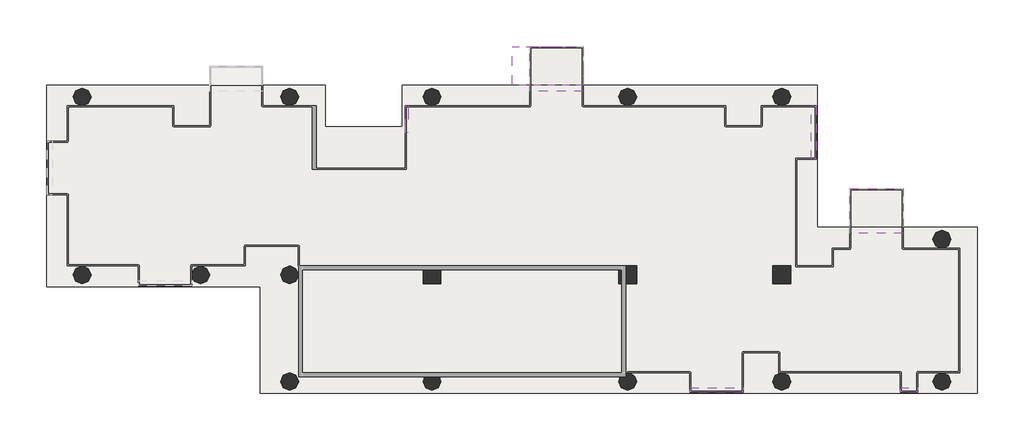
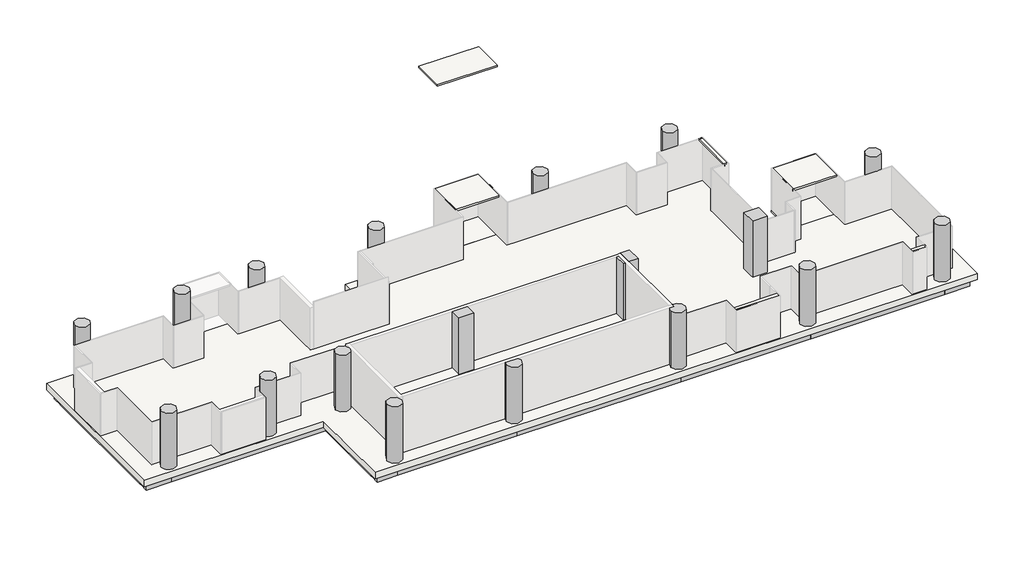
# One storey, part 2 of 2: 32 slabs, 25 beams, 18 columns.
"""IFC4 building model written with IfcOpenShell, lengths in millimetres."""

from ifc_helpers import new_model, si_unit, point, frame, frame_2d, origin, place, context, project, spatial, polyline, circle_curve, trimmed, segment, composite_curve, outline, extrude, transform, mapped, element, save
from ifc_brep_helpers import plane_surface, cylinder_surface, advanced_brep
from components import ajn_arc_ossature_rec_ba_700x600_5242ffbb, ajn_arc_ossature_rec_ba_700x600_213c05e2, ajn_arc_ossature_rec_ba_700x600_4d623bda, ajn_arc_ossature_rec_ba_700x600_c2a8f1af, ajn_arc_ossature_rec_ba_700x600_b2f97811, ajn_arc_ossature_rec_ba_700x600_e688680c, ajn_arc_ossature_rec_ba_700x600_8adee879, ajn_arc_ossature_rec_ba_700x600_6677e51c, ajn_arc_ossature_rec_ba_700x600_60e35d56, ajn_arc_ossature_rec_ba_700x600_9ae0f913, ajn_arc_ossature_rec_ba_700x600_5c14351b, ajn_arc_ossature_rec_ba_700x600_e883967f, ajn_arc_ossature_rec_ba_700x600_0984b03c, ajn_arc_ossature_rec_ba_700x600_78f846f2, ajn_arc_ossature_rec_ba_700x600_e869caa8, ajn_arc_ossature_rec_ba_700x600_0388eb48, ajn_arc_ossature_rec_ba_700x600_e143517c, ajn_arc_ossature_rec_ba_700x600_758f1bfa, ajn_arc_ossature_rec_ba_700x600_a03432ce, ajn_arc_ossature_rec_ba_700x600_9f913ea5

model = new_model("IFC4")

# Units and contexts
model_context = context("Model", 3, world=origin())
ifc_project = project(units=[si_unit("LENGTHUNIT", "METRE", prefix="MILLI")], contexts=[model_context])

# Site, building, storey
site = spatial("IfcSite", under=ifc_project)
building = spatial("IfcBuilding", under=site)
storey = spatial("IfcBuildingStorey", under=building, Name="TW-L 15", Elevation=53199.9999686)

# Beams
placement = place(None, origin())
ajn_arc_ossature_rec_ba_700x600_shape = ajn_arc_ossature_rec_ba_700x600_5242ffbb(model_context)
element("IfcBeam", 1, ObjectType="AJN-ARC-OSSATURE REC-BA : 700x600", at=placement, inside=storey, context=model_context, shape_type="MappedRepresentation", body=[
    mapped(ajn_arc_ossature_rec_ba_700x600_shape, transform((119350.0, 39300.0, 52649.9999686), x_axis=(-1.0, 0.0, 0.0), y_axis=(0.0, -1.0, 0.0), z_axis=(0.0, 0.0, 1.0))),
])
ajn_arc_ossature_rec_ba_700x600_2_shape = ajn_arc_ossature_rec_ba_700x600_213c05e2(model_context)
element("IfcBeam", 2, ObjectType="AJN-ARC-OSSATURE REC-BA : 700x600", at=placement, inside=storey, context=model_context, shape_type="MappedRepresentation", body=[
    mapped(ajn_arc_ossature_rec_ba_700x600_2_shape, transform((100900.0, 34800.0, 52649.9999686), x_axis=(0.0, -1.0, 0.0), y_axis=(1.0, 0.0, 0.0), z_axis=(0.0, 0.0, 1.0))),
])
ajn_arc_ossature_rec_ba_700x600_3_shape = ajn_arc_ossature_rec_ba_700x600_4d623bda(model_context)
element("IfcBeam", 3, ObjectType="AJN-ARC-OSSATURE REC-BA : 700x600", at=placement, inside=storey, context=model_context, shape_type="MappedRepresentation", body=[
    mapped(ajn_arc_ossature_rec_ba_700x600_3_shape, transform((112150.0, 24900.0, 52649.9999686), x_axis=(1.0, 0.0, 0.0), y_axis=(0.0, 1.0, 0.0), z_axis=(0.0, 0.0, 1.0))),
])
ajn_arc_ossature_rec_ba_700x600_4_shape = ajn_arc_ossature_rec_ba_700x600_c2a8f1af(model_context)
element("IfcBeam", 4, ObjectType="AJN-ARC-OSSATURE REC-BA : 700x600", at=placement, inside=storey, context=model_context, shape_type="MappedRepresentation", body=[
    mapped(ajn_arc_ossature_rec_ba_700x600_4_shape, transform((116200.0, 24900.0, 52649.9999686), x_axis=(1.0, 0.0, 0.0), y_axis=(0.0, 1.0, 0.0), z_axis=(0.0, 0.0, 1.0))),
])
ajn_arc_ossature_rec_ba_700x600_5_shape = ajn_arc_ossature_rec_ba_700x600_b2f97811(model_context)
element("IfcBeam", 5, ObjectType="AJN-ARC-OSSATURE REC-BA : 700x600", at=placement, inside=storey, context=model_context, shape_type="MappedRepresentation", body=[
    mapped(ajn_arc_ossature_rec_ba_700x600_5_shape, transform((106900.0, 30300.0, 52649.9999686), x_axis=(1.0, 0.0, 0.0), y_axis=(0.0, 1.0, 0.0), z_axis=(0.0, 0.0, 1.0))),
])
ajn_arc_ossature_rec_ba_700x600_6_shape = ajn_arc_ossature_rec_ba_700x600_e688680c(model_context)
element("IfcBeam", 6, ObjectType="AJN-ARC-OSSATURE REC-BA : 700x600", at=placement, inside=storey, context=model_context, shape_type="MappedRepresentation", body=[
    mapped(ajn_arc_ossature_rec_ba_700x600_6_shape, transform((111700.0, 27600.0, 52649.9999686), x_axis=(0.0, -1.0, 0.0), y_axis=(1.0, 0.0, 0.0), z_axis=(0.0, 0.0, 1.0))),
])
ajn_arc_ossature_rec_ba_700x600_7_shape = ajn_arc_ossature_rec_ba_700x600_8adee879(model_context)
element("IfcBeam", 7, ObjectType="AJN-ARC-OSSATURE REC-BA : 700x600", at=placement, inside=storey, context=model_context, shape_type="MappedRepresentation", body=[
    mapped(ajn_arc_ossature_rec_ba_700x600_7_shape, transform((124750.0, 24900.0, 52649.9999686), x_axis=(1.0, 0.0, 0.0), y_axis=(0.0, 1.0, 0.0), z_axis=(0.0, 0.0, 1.0))),
])
element("IfcBeam", 8, ObjectType="AJN-ARC-OSSATURE REC-BA : 700x600", at=placement, inside=storey, context=model_context, shape_type="MappedRepresentation", body=[
    mapped(ajn_arc_ossature_rec_ba_700x600_7_shape, transform((124750.0, 39300.0, 52649.9999686), x_axis=(-1.0, 0.0, 0.0), y_axis=(0.0, -1.0, 0.0), z_axis=(0.0, 0.0, 1.0))),
])
ajn_arc_ossature_rec_ba_700x600_8_shape = ajn_arc_ossature_rec_ba_700x600_6677e51c(model_context)
element("IfcBeam", 9, ObjectType="AJN-ARC-OSSATURE REC-BA : 700x600", at=placement, inside=storey, context=model_context, shape_type="MappedRepresentation", body=[
    mapped(ajn_arc_ossature_rec_ba_700x600_8_shape, transform((133600.0, 24900.0, 52649.9999686), x_axis=(1.0, 0.0, 0.0), y_axis=(0.0, 1.0, 0.0), z_axis=(0.0, 0.0, 1.0))),
])
ajn_arc_ossature_rec_ba_700x600_9_shape = ajn_arc_ossature_rec_ba_700x600_60e35d56(model_context)
element("IfcBeam", 10, ObjectType="AJN-ARC-OSSATURE REC-BA : 700x600", at=placement, inside=storey, context=model_context, shape_type="MappedRepresentation", body=[
    mapped(ajn_arc_ossature_rec_ba_700x600_9_shape, transform((141550.0, 24900.0, 52649.9999686), x_axis=(1.0, 0.0, 0.0), y_axis=(0.0, 1.0, 0.0), z_axis=(0.0, 0.0, 1.0))),
])
ajn_arc_ossature_rec_ba_700x600_10_shape = ajn_arc_ossature_rec_ba_700x600_9ae0f913(model_context)
element("IfcBeam", 11, ObjectType="AJN-ARC-OSSATURE REC-BA : 700x600", at=placement, inside=storey, context=model_context, shape_type="MappedRepresentation", body=[
    mapped(ajn_arc_ossature_rec_ba_700x600_10_shape, transform((146200.0, 24900.0, 52649.9999686), x_axis=(1.0, 0.0, 0.0), y_axis=(0.0, 1.0, 0.0), z_axis=(0.0, 0.0, 1.0))),
])
element("IfcBeam", 12, ObjectType="AJN-ARC-OSSATURE REC-BA : 700x600", at=placement, inside=storey, context=model_context, shape_type="MappedRepresentation", body=[
    mapped(ajn_arc_ossature_rec_ba_700x600_10_shape, transform((101500.0, 39300.0, 52649.9999686), x_axis=(-1.0, 0.0, 0.0), y_axis=(0.0, -1.0, 0.0), z_axis=(0.0, 0.0, 1.0))),
])
ajn_arc_ossature_rec_ba_700x600_11_shape = ajn_arc_ossature_rec_ba_700x600_5c14351b(model_context)
element("IfcBeam", 13, ObjectType="AJN-ARC-OSSATURE REC-BA : 700x600", at=placement, inside=storey, context=model_context, shape_type="MappedRepresentation", body=[
    mapped(ajn_arc_ossature_rec_ba_700x600_11_shape, transform((146800.0, 28500.0, 52649.9999686), x_axis=(0.0, 1.0, 0.0), y_axis=(-1.0, 0.0, 0.0), z_axis=(0.0, 0.0, 1.0))),
])
element("IfcBeam", 14, ObjectType="AJN-ARC-OSSATURE REC-BA : 700x600", at=placement, inside=storey, context=model_context, shape_type="MappedRepresentation", body=[
    mapped(ajn_arc_ossature_rec_ba_700x600_11_shape, transform((138700.0, 35700.0, 52649.9999686), x_axis=(0.0, 1.0, 0.0), y_axis=(-1.0, 0.0, 0.0), z_axis=(0.0, 0.0, 1.0))),
])
ajn_arc_ossature_rec_ba_700x600_12_shape = ajn_arc_ossature_rec_ba_700x600_e883967f(model_context)
element("IfcBeam", 15, ObjectType="AJN-ARC-OSSATURE REC-BA : 700x600", at=placement, inside=storey, context=model_context, shape_type="MappedRepresentation", body=[
    mapped(ajn_arc_ossature_rec_ba_700x600_12_shape, transform((146200.0, 32100.0, 52649.9999686), x_axis=(-1.0, 0.0, 0.0), y_axis=(0.0, -1.0, 0.0), z_axis=(0.0, 0.0, 1.0))),
])
element("IfcBeam", 16, ObjectType="AJN-ARC-OSSATURE REC-BA : 700x600", at=placement, inside=storey, context=model_context, shape_type="MappedRepresentation", body=[
    mapped(ajn_arc_ossature_rec_ba_700x600_12_shape, transform((138100.0, 39300.0, 52649.9999686), x_axis=(-1.0, 0.0, 0.0), y_axis=(0.0, -1.0, 0.0), z_axis=(0.0, 0.0, 1.0))),
])
element("IfcBeam", 17, ObjectType="AJN-ARC-OSSATURE REC-BA : 700x600", at=placement, inside=storey, context=model_context, shape_type="MappedRepresentation", body=[
    mapped(ajn_arc_ossature_rec_ba_700x600_12_shape, transform((101500.0, 30300.0, 52649.9999686), x_axis=(1.0, 0.0, 0.0), y_axis=(0.0, 1.0, 0.0), z_axis=(0.0, 0.0, 1.0))),
])
ajn_arc_ossature_rec_ba_700x600_13_shape = ajn_arc_ossature_rec_ba_700x600_0984b03c(model_context)
element("IfcBeam", 18, ObjectType="AJN-ARC-OSSATURE REC-BA : 700x600", at=placement, inside=storey, context=model_context, shape_type="MappedRepresentation", body=[
    mapped(ajn_arc_ossature_rec_ba_700x600_13_shape, transform((142150.0, 32100.0, 52649.9999686), x_axis=(-1.0, 0.0, 0.0), y_axis=(0.0, -1.0, 0.0), z_axis=(0.0, 0.0, 1.0))),
])
ajn_arc_ossature_rec_ba_700x600_14_shape = ajn_arc_ossature_rec_ba_700x600_78f846f2(model_context)
element("IfcBeam", 19, ObjectType="AJN-ARC-OSSATURE REC-BA : 700x600", at=placement, inside=storey, context=model_context, shape_type="MappedRepresentation", body=[
    mapped(ajn_arc_ossature_rec_ba_700x600_14_shape, transform((133600.0, 39300.0, 52649.9999686), x_axis=(-1.0, 0.0, 0.0), y_axis=(0.0, -1.0, 0.0), z_axis=(0.0, 0.0, 1.0))),
])
ajn_arc_ossature_rec_ba_700x600_15_shape = ajn_arc_ossature_rec_ba_700x600_e869caa8(model_context)
element("IfcBeam", 20, ObjectType="AJN-ARC-OSSATURE REC-BA : 700x600", at=placement, inside=storey, context=model_context, shape_type="MappedRepresentation", body=[
    mapped(ajn_arc_ossature_rec_ba_700x600_15_shape, transform((118900.0, 38250.0, 52649.9999686), x_axis=(0.0, -1.0, 0.0), y_axis=(1.0, 0.0, 0.0), z_axis=(0.0, 0.0, 1.0))),
])
ajn_arc_ossature_rec_ba_700x600_16_shape = ajn_arc_ossature_rec_ba_700x600_0388eb48(model_context)
element("IfcBeam", 21, ObjectType="AJN-ARC-OSSATURE REC-BA : 700x600", at=placement, inside=storey, context=model_context, shape_type="MappedRepresentation", body=[
    mapped(ajn_arc_ossature_rec_ba_700x600_16_shape, transform((110350.0, 39300.0, 52649.9999686), x_axis=(-1.0, 0.0, 0.0), y_axis=(0.0, -1.0, 0.0), z_axis=(0.0, 0.0, 1.0))),
])
ajn_arc_ossature_rec_ba_700x600_17_shape = ajn_arc_ossature_rec_ba_700x600_e143517c(model_context)
element("IfcBeam", 22, ObjectType="AJN-ARC-OSSATURE REC-BA : 700x600", at=placement, inside=storey, context=model_context, shape_type="MappedRepresentation", body=[
    mapped(ajn_arc_ossature_rec_ba_700x600_17_shape, transform((105100.0, 39300.0, 52649.9999686), x_axis=(-1.0, 0.0, 0.0), y_axis=(0.0, -1.0, 0.0), z_axis=(0.0, 0.0, 1.0))),
])
ajn_arc_ossature_rec_ba_700x600_18_shape = ajn_arc_ossature_rec_ba_700x600_758f1bfa(model_context)
element("IfcBeam", 23, ObjectType="AJN-ARC-OSSATURE REC-BA : 700x600", at=placement, inside=storey, context=model_context, shape_type="MappedRepresentation", body=[
    mapped(ajn_arc_ossature_rec_ba_700x600_18_shape, transform((116350.0, 37200.0, 52649.9999686), x_axis=(-1.0, 0.0, 0.0), y_axis=(0.0, -1.0, 0.0), z_axis=(0.0, 0.0, 1.0))),
])
ajn_arc_ossature_rec_ba_700x600_19_shape = ajn_arc_ossature_rec_ba_700x600_a03432ce(model_context)
element("IfcBeam", 24, ObjectType="AJN-ARC-OSSATURE REC-BA : 700x600", at=placement, inside=storey, context=model_context, shape_type="MappedRepresentation", body=[
    mapped(ajn_arc_ossature_rec_ba_700x600_19_shape, transform((113800.0, 38250.0, 52649.9999686), x_axis=(0.0, 1.0, 0.0), y_axis=(-1.0, 0.0, 0.0), z_axis=(0.0, 0.0, 1.0))),
])
ajn_arc_ossature_rec_ba_700x600_20_shape = ajn_arc_ossature_rec_ba_700x600_9f913ea5(model_context)
element("IfcBeam", 25, ObjectType="AJN-ARC-OSSATURE REC-BA : 700x600", at=placement, inside=storey, context=model_context, shape_type="MappedRepresentation", body=[
    mapped(ajn_arc_ossature_rec_ba_700x600_20_shape, transform((113200.0, 39300.0, 52649.9999686), x_axis=(-1.0, 0.0, 0.0), y_axis=(0.0, -1.0, 0.0), z_axis=(0.0, 0.0, 1.0))),
])

# Columns
element("IfcColumn", 26, ObjectType="AJN-ARC-POTEAU CIRCULAIRE : ø90", at=placement, inside=storey, context=model_context, shape_type="SweptSolid", body=[
    extrude(outline(composite_curve([segment(trimmed(circle_curve(frame_2d((102100.0, 39300.0)), 450.0), [point((101650.0, 39300.0))], [point((102550.0, 39300.0))], False, "CARTESIAN"), True, "CONTINUOUS"), segment(trimmed(circle_curve(frame_2d((102100.0, 39300.0)), 450.0), [point((102550.0, 39300.0))], [point((101650.0, 39300.0))], False, "CARTESIAN"), True, "CONTINUOUS")], self_intersect=False)), frame((0.0, 0.0, 53199.9999686), z_axis=(0.0, 0.0, 1.0), x_axis=(1.0, 0.0, 0.0)), (0.0, 0.0, 1.0), 3600.0),
])
element("IfcColumn", 27, ObjectType="AJN-ARC-POTEAU CIRCULAIRE : ø90", at=placement, inside=storey, context=model_context, shape_type="SweptSolid", body=[
    extrude(outline(composite_curve([segment(trimmed(circle_curve(frame_2d((102100.0, 30300.0)), 450.0), [point((101650.0, 30300.0))], [point((102550.0, 30300.0))], False, "CARTESIAN"), True, "CONTINUOUS"), segment(trimmed(circle_curve(frame_2d((102100.0, 30300.0)), 450.0), [point((102550.0, 30300.0))], [point((101650.0, 30300.0))], False, "CARTESIAN"), True, "CONTINUOUS")], self_intersect=False)), frame((0.0, 0.0, 53199.9999686), z_axis=(0.0, 0.0, 1.0), x_axis=(1.0, 0.0, 0.0)), (0.0, 0.0, 1.0), 3600.0),
])
element("IfcColumn", 28, ObjectType="AJN-ARC-POTEAU CIRCULAIRE : ø90", at=placement, inside=storey, context=model_context, shape_type="SweptSolid", body=[
    extrude(outline(composite_curve([segment(trimmed(circle_curve(frame_2d((108100.0, 30300.0)), 450.0), [point((107650.0, 30300.0))], [point((108550.0, 30300.0))], False, "CARTESIAN"), True, "CONTINUOUS"), segment(trimmed(circle_curve(frame_2d((108100.0, 30300.0)), 450.0), [point((108550.0, 30300.0))], [point((107650.0, 30300.0))], False, "CARTESIAN"), True, "CONTINUOUS")], self_intersect=False)), frame((0.0, 0.0, 53199.9999686), z_axis=(0.0, 0.0, 1.0), x_axis=(1.0, 0.0, 0.0)), (0.0, 0.0, 1.0), 3600.0),
])
element("IfcColumn", 29, ObjectType="AJN-ARC-POTEAU CIRCULAIRE : ø90", at=placement, inside=storey, context=model_context, shape_type="AdvancedBrep", body=[
    advanced_brep(
    [(107650.0, 39300.0, 53199.9999686), (108546.9852535, 39352.0017611, 53199.9999686), (108546.9852535, 39247.9982389, 53199.9999686), (107650.0, 39300.0, 56799.9999686), (108550.0, 39300.0, 56799.9999686), (108550.0, 39300.0, 55899.9999686), (108546.9852535, 39352.0017611, 55899.9999686), (108546.9852535, 39247.9982389, 55899.9999686)],
    [
        (0, 1, circle_curve(frame((108100.0, 39300.0, 53199.9999686), z_axis=(0.0, 0.0, -1.0), x_axis=(1.0, 0.0, 0.0)), 450.0)),
        (1, 2),
        (2, 0, circle_curve(frame((108100.0, 39300.0, 53199.9999686), z_axis=(0.0, 0.0, -1.0), x_axis=(1.0, 0.0, 0.0)), 450.0)),
        (3, 4, circle_curve(frame((108100.0, 39300.0, 56799.9999686), z_axis=(0.0, 0.0, -1.0), x_axis=(1.0, 0.0, 0.0)), 450.0)),
        (4, 5),
        (5, 6, circle_curve(frame((108100.0, 39300.0, 55899.9999686), z_axis=(0.0, 0.0, 1.0), x_axis=(1.0, 0.0, 0.0)), 450.0)),
        (6, 1),
        (0, 3),
        (2, 7),
        (7, 5, circle_curve(frame((108100.0, 39300.0, 55899.9999686), z_axis=(0.0, 0.0, 1.0), x_axis=(1.0, 0.0, 0.0)), 450.0)),
        (4, 3, circle_curve(frame((108100.0, 39300.0, 56799.9999686), z_axis=(0.0, 0.0, -1.0), x_axis=(1.0, 0.0, 0.0)), 450.0)),
        (6, 7),
    ],
    [
        plane_surface(frame((108550.0, 39300.0, 53199.9999686), z_axis=(0.0, 0.0, -1.0), x_axis=(0.0, -1.0, 0.0))),
        cylinder_surface(frame((108100.0, 39300.0, 53199.9999686), z_axis=(0.0, 0.0, 1.0), x_axis=(1.0, 0.0, 0.0)), 450.0),
        plane_surface(frame((108550.0, 39300.0, 56799.9999686), z_axis=(0.0, 0.0, 1.0), x_axis=(0.0, 1.0, 0.0))),
        plane_surface(frame((108546.9852535, 40825.0, 53199.9999686), z_axis=(1.0, 0.0, 0.0), x_axis=(0.0, -1.0, 0.0))),
        plane_surface(frame((108546.9852535, 37850.0, 55899.9999686), z_axis=(0.0, 0.0, -1.0), x_axis=(1.0, 0.0, 0.0))),
    ],
    [
        (0, [[1, 2, 3]]),
        (1, [[4, 5, 6, 7, -1, 8]]),
        (1, [[-8, -3, 9, 10, -5, 11]]),
        (2, [[-4, -11]]),
        (3, [[12, -9, -2, -7]]),
        (4, [[-12, -6, -10]]),
    ],
),
])
element("IfcColumn", 30, ObjectType="AJN-ARC-POTEAU CIRCULAIRE : ø90", at=placement, inside=storey, context=model_context, shape_type="SweptSolid", body=[
    extrude(outline(composite_curve([segment(trimmed(circle_curve(frame_2d((112600.0, 39300.0)), 450.0), [point((112150.0, 39300.0))], [point((113050.0, 39300.0))], False, "CARTESIAN"), True, "CONTINUOUS"), segment(trimmed(circle_curve(frame_2d((112600.0, 39300.0)), 450.0), [point((113050.0, 39300.0))], [point((112150.0, 39300.0))], False, "CARTESIAN"), True, "CONTINUOUS")], self_intersect=False)), frame((0.0, 0.0, 53199.9999686), z_axis=(0.0, 0.0, 1.0), x_axis=(1.0, 0.0, 0.0)), (0.0, 0.0, 1.0), 3600.0),
])
element("IfcColumn", 31, ObjectType="AJN-ARC-POTEAU CIRCULAIRE : ø90", at=placement, inside=storey, context=model_context, shape_type="SweptSolid", body=[
    extrude(outline(composite_curve([segment(trimmed(circle_curve(frame_2d((112600.0, 30300.0)), 450.0), [point((112150.0, 30300.0))], [point((113050.0, 30300.0))], False, "CARTESIAN"), True, "CONTINUOUS"), segment(trimmed(circle_curve(frame_2d((112600.0, 30300.0)), 450.0), [point((113050.0, 30300.0))], [point((112150.0, 30300.0))], False, "CARTESIAN"), True, "CONTINUOUS")], self_intersect=False)), frame((0.0, 0.0, 53199.9999686), z_axis=(0.0, 0.0, 1.0), x_axis=(1.0, 0.0, 0.0)), (0.0, 0.0, 1.0), 3600.0),
])
element("IfcColumn", 32, ObjectType="AJN-ARC-POTEAU CIRCULAIRE : ø90", at=placement, inside=storey, context=model_context, shape_type="SweptSolid", body=[
    extrude(outline(composite_curve([segment(trimmed(circle_curve(frame_2d((112600.0, 24900.0)), 450.0), [point((112150.0, 24900.0))], [point((113050.0, 24900.0))], False, "CARTESIAN"), True, "CONTINUOUS"), segment(trimmed(circle_curve(frame_2d((112600.0, 24900.0)), 450.0), [point((113050.0, 24900.0))], [point((112150.0, 24900.0))], False, "CARTESIAN"), True, "CONTINUOUS")], self_intersect=False)), frame((0.0, 0.0, 53199.9999686), z_axis=(0.0, 0.0, 1.0), x_axis=(1.0, 0.0, 0.0)), (0.0, 0.0, 1.0), 3600.0),
])
element("IfcColumn", 33, ObjectType="AJN-ARC-POTEAU CIRCULAIRE : ø90", at=placement, inside=storey, context=model_context, shape_type="SweptSolid", body=[
    extrude(outline(composite_curve([segment(trimmed(circle_curve(frame_2d((119800.0, 24900.0)), 450.0), [point((120250.0, 24900.0))], [point((119350.0, 24900.0))], False, "CARTESIAN"), True, "CONTINUOUS"), segment(trimmed(circle_curve(frame_2d((119800.0, 24900.0)), 450.0), [point((119350.0, 24900.0))], [point((119425.8342613, 25150.0))], False, "CARTESIAN"), True, "CONTINUOUS"), segment(polyline([(119425.8342613, 25150.0), (120174.1657387, 25150.0)]), True, "CONTINUOUS"), segment(trimmed(circle_curve(frame_2d((119800.0, 24900.0)), 450.0), [point((120174.1657387, 25150.0))], [point((120250.0, 24900.0))], False, "CARTESIAN"), True, "CONTINUOUS")], self_intersect=False)), frame((0.0, 0.0, 53199.9999686), z_axis=(0.0, 0.0, 1.0), x_axis=(1.0, 0.0, 0.0)), (0.0, 0.0, 1.0), 3600.0),
])
element("IfcColumn", 34, ObjectType="AJN-ARC-POTEAU CIRCULAIRE : ø90", at=placement, inside=storey, context=model_context, shape_type="SweptSolid", body=[
    extrude(outline(composite_curve([segment(trimmed(circle_curve(frame_2d((119800.0, 39300.0)), 450.0), [point((119350.0, 39300.0))], [point((120250.0, 39300.0))], False, "CARTESIAN"), True, "CONTINUOUS"), segment(trimmed(circle_curve(frame_2d((119800.0, 39300.0)), 450.0), [point((120250.0, 39300.0))], [point((119350.0, 39300.0))], False, "CARTESIAN"), True, "CONTINUOUS")], self_intersect=False)), frame((0.0, 0.0, 53199.9999686), z_axis=(0.0, 0.0, 1.0), x_axis=(1.0, 0.0, 0.0)), (0.0, 0.0, 1.0), 3600.0),
])
element("IfcColumn", 35, ObjectType="AJN-ARC-POTEAU CIRCULAIRE : ø90", at=placement, inside=storey, context=model_context, shape_type="SweptSolid", body=[
    extrude(outline(composite_curve([segment(trimmed(circle_curve(frame_2d((129700.0, 39300.0)), 450.0), [point((129250.0, 39300.0))], [point((130150.0, 39300.0))], False, "CARTESIAN"), True, "CONTINUOUS"), segment(trimmed(circle_curve(frame_2d((129700.0, 39300.0)), 450.0), [point((130150.0, 39300.0))], [point((129250.0, 39300.0))], False, "CARTESIAN"), True, "CONTINUOUS")], self_intersect=False)), frame((0.0, 0.0, 53199.9999686), z_axis=(0.0, 0.0, 1.0), x_axis=(1.0, 0.0, 0.0)), (0.0, 0.0, 1.0), 3600.0),
])
element("IfcColumn", 36, ObjectType="AJN-ARC-POTEAU CIRCULAIRE : ø90", at=placement, inside=storey, context=model_context, shape_type="SweptSolid", body=[
    extrude(outline(composite_curve([segment(trimmed(circle_curve(frame_2d((129700.0, 24900.0)), 450.0), [point((130150.0, 24900.0))], [point((129250.0, 24900.0))], False, "CARTESIAN"), True, "CONTINUOUS"), segment(trimmed(circle_curve(frame_2d((129700.0, 24900.0)), 450.0), [point((129250.0, 24900.0))], [point((129325.8342613, 25150.0))], False, "CARTESIAN"), True, "CONTINUOUS"), segment(polyline([(129325.8342613, 25150.0), (129600.0, 25150.0), (129600.0, 25338.7482194)]), True, "CONTINUOUS"), segment(trimmed(circle_curve(frame_2d((129700.0, 24900.0)), 450.0), [point((129600.0, 25338.7482194))], [point((130150.0, 24900.0))], False, "CARTESIAN"), True, "CONTINUOUS")], self_intersect=False)), frame((0.0, 0.0, 53199.9999686), z_axis=(0.0, 0.0, 1.0), x_axis=(1.0, 0.0, 0.0)), (0.0, 0.0, 1.0), 3600.0),
])
element("IfcColumn", 37, ObjectType="AJN-ARC-POTEAU CIRCULAIRE : ø90", at=placement, inside=storey, context=model_context, shape_type="SweptSolid", body=[
    extrude(outline(composite_curve([segment(trimmed(circle_curve(frame_2d((137500.0, 39300.0)), 450.0), [point((137050.0, 39300.0))], [point((137950.0, 39300.0))], False, "CARTESIAN"), True, "CONTINUOUS"), segment(trimmed(circle_curve(frame_2d((137500.0, 39300.0)), 450.0), [point((137950.0, 39300.0))], [point((137050.0, 39300.0))], False, "CARTESIAN"), True, "CONTINUOUS")], self_intersect=False)), frame((0.0, 0.0, 53199.9999686), z_axis=(0.0, 0.0, 1.0), x_axis=(1.0, 0.0, 0.0)), (0.0, 0.0, 1.0), 3600.0),
])
element("IfcColumn", 38, ObjectType="AJN-ARC-POTEAU CIRCULAIRE : ø90", at=placement, inside=storey, context=model_context, shape_type="SweptSolid", body=[
    extrude(outline(composite_curve([segment(trimmed(circle_curve(frame_2d((137500.0, 24900.0)), 450.0), [point((137050.0, 24900.0))], [point((137950.0, 24900.0))], False, "CARTESIAN"), True, "CONTINUOUS"), segment(trimmed(circle_curve(frame_2d((137500.0, 24900.0)), 450.0), [point((137950.0, 24900.0))], [point((137050.0, 24900.0))], False, "CARTESIAN"), True, "CONTINUOUS")], self_intersect=False)), frame((0.0, 0.0, 53199.9999686), z_axis=(0.0, 0.0, 1.0), x_axis=(1.0, 0.0, 0.0)), (0.0, 0.0, 1.0), 3600.0),
])
element("IfcColumn", 39, ObjectType="AJN-ARC-POTEAU CIRCULAIRE : ø90", at=placement, inside=storey, context=model_context, shape_type="SweptSolid", body=[
    extrude(outline(composite_curve([segment(trimmed(circle_curve(frame_2d((145600.0, 24900.0)), 450.0), [point((145150.0, 24900.0))], [point((146050.0, 24900.0))], False, "CARTESIAN"), True, "CONTINUOUS"), segment(trimmed(circle_curve(frame_2d((145600.0, 24900.0)), 450.0), [point((146050.0, 24900.0))], [point((145150.0, 24900.0))], False, "CARTESIAN"), True, "CONTINUOUS")], self_intersect=False)), frame((0.0, 0.0, 53199.9999686), z_axis=(0.0, 0.0, 1.0), x_axis=(1.0, 0.0, 0.0)), (0.0, 0.0, 1.0), 3600.0),
])
element("IfcColumn", 40, ObjectType="AJN-ARC-POTEAU CIRCULAIRE : ø90", at=placement, inside=storey, context=model_context, shape_type="AdvancedBrep", body=[
    advanced_brep(
    [(145150.0, 32100.0, 53199.9999686), (146050.0, 32100.0, 53199.9999686), (145638.6089983, 31651.6593424, 53199.9999686), (145561.3910017, 31651.6593424, 53199.9999686), (145150.0, 32100.0, 56799.9999686), (146050.0, 32100.0, 56799.9999686), (145561.3910017, 31651.6593424, 55899.9999686), (145638.6089983, 31651.6593424, 55899.9999686)],
    [
        (0, 1, circle_curve(frame((145600.0, 32100.0, 53199.9999686), z_axis=(0.0, 0.0, -1.0), x_axis=(1.0, 0.0, 0.0)), 450.0)),
        (1, 2, circle_curve(frame((145600.0, 32100.0, 53199.9999686), z_axis=(0.0, 0.0, -1.0), x_axis=(1.0, 0.0, 0.0)), 450.0)),
        (2, 3),
        (3, 0, circle_curve(frame((145600.0, 32100.0, 53199.9999686), z_axis=(0.0, 0.0, -1.0), x_axis=(1.0, 0.0, 0.0)), 450.0)),
        (0, 4),
        (4, 5, circle_curve(frame((145600.0, 32100.0, 56799.9999686), z_axis=(0.0, 0.0, -1.0), x_axis=(1.0, 0.0, 0.0)), 450.0)),
        (5, 1),
        (5, 4, circle_curve(frame((145600.0, 32100.0, 56799.9999686), z_axis=(0.0, 0.0, -1.0), x_axis=(1.0, 0.0, 0.0)), 450.0)),
        (3, 6),
        (6, 7, circle_curve(frame((145600.0, 32100.0, 55899.9999686), z_axis=(0.0, 0.0, 1.0), x_axis=(1.0, 0.0, 0.0)), 450.0)),
        (7, 2),
        (7, 6),
    ],
    [
        plane_surface(frame((146050.0, 32100.0, 53199.9999686), z_axis=(0.0, 0.0, -1.0), x_axis=(0.0, -1.0, 0.0))),
        cylinder_surface(frame((145600.0, 32100.0, 53199.9999686), z_axis=(0.0, 0.0, 1.0), x_axis=(1.0, 0.0, 0.0)), 450.0),
        plane_surface(frame((146050.0, 32100.0, 56799.9999686), z_axis=(0.0, 0.0, 1.0), x_axis=(0.0, 1.0, 0.0))),
        plane_surface(frame((146472.681474, 31651.6593424, 53199.9999686), z_axis=(0.0, -1.0, 0.0), x_axis=(-1.0, 0.0, 0.0))),
        plane_surface(frame((143650.0, 31651.6593424, 55899.9999686), z_axis=(0.0, 0.0, -1.0), x_axis=(0.0, -1.0, 0.0))),
    ],
    [
        (0, [[1, 2, 3, 4]]),
        (1, [[-1, 5, 6, 7]]),
        (1, [[-7, 8, -5, -4, 9, 10, 11, -2]]),
        (2, [[-6, -8]]),
        (3, [[12, -9, -3, -11]]),
        (4, [[-12, -10]]),
    ],
),
])
element("IfcColumn", 41, ObjectType="AJN-ARC-POTEAU RECTANGULAIRE : 900 mm x 900 mm", at=placement, inside=storey, context=model_context, shape_type="SweptSolid", body=[
    extrude(outline(polyline([(137950.0, 30750.0), (137950.0, 29850.0), (137050.0, 29850.0), (137050.0, 30750.0), (137950.0, 30750.0)])), frame((0.0, 0.0, 53199.9999686), z_axis=(0.0, 0.0, 1.0), x_axis=(1.0, 0.0, 0.0)), (0.0, 0.0, 1.0), 3600.0),
])
element("IfcColumn", 42, ObjectType="AJN-ARC-POTEAU RECTANGULAIRE : 900 mm x 900 mm", at=placement, inside=storey, context=model_context, shape_type="SweptSolid", body=[
    extrude(outline(polyline([(129400.0, 29850.0), (129250.0, 29850.0), (129250.0, 30550.0), (129400.0, 30550.0), (129400.0, 29850.0)])), frame((0.0, 0.0, 53199.9999686), z_axis=(0.0, 0.0, 1.0), x_axis=(1.0, 0.0, 0.0)), (0.0, 0.0, 1.0), 3600.0),
    extrude(outline(polyline([(130150.0, 30750.0), (130150.0, 29850.0), (129600.0, 29850.0), (129600.0, 30750.0), (130150.0, 30750.0)])), frame((0.0, 0.0, 53199.9999686), z_axis=(0.0, 0.0, 1.0), x_axis=(1.0, 0.0, 0.0)), (0.0, 0.0, 1.0), 3600.0),
])
element("IfcColumn", 43, ObjectType="AJN-ARC-POTEAU RECTANGULAIRE : 900 mm x 900 mm", at=placement, inside=storey, context=model_context, shape_type="SweptSolid", body=[
    extrude(outline(polyline([(120250.0, 29850.0), (119350.0, 29850.0), (119350.0, 30550.0), (120250.0, 30550.0), (120250.0, 29850.0)])), frame((0.0, 0.0, 53199.9999686), z_axis=(0.0, 0.0, 1.0), x_axis=(1.0, 0.0, 0.0)), (0.0, 0.0, 1.0), 3600.0),
])

# Slabs
element("IfcSlab", 44, ObjectType="AJN-ARC-SLAB-10cm", at=placement, inside=storey, context=model_context, shape_type="SweptSolid", body=[
    extrude(outline(polyline([(127458.039324, 39900.0), (124758.039324, 39900.0), (124758.039324, 41850.0), (127458.039324, 41850.0), (127458.039324, 39900.0)])), frame((0.0, 0.0, 53099.9999686), z_axis=(0.0, 0.0, 1.0), x_axis=(1.0, 0.0, 0.0)), (0.0, 0.0, 1.0), 100.0),
])
element("IfcSlab", 45, ObjectType="AJN-ARC-SLAB-10cm", at=placement, inside=storey, context=model_context, shape_type="SweptSolid", body=[
    extrude(outline(polyline([(143650.0, 32700.0), (140950.0, 32700.0), (140950.0, 34651.6593424), (143650.0, 34651.6593424), (143650.0, 32700.0)])), frame((0.0, 0.0, 53099.9999686), z_axis=(0.0, 0.0, 1.0), x_axis=(1.0, 0.0, 0.0)), (0.0, 0.0, 1.0), 100.0),
])
element("IfcSlab", 46, ObjectType="AJN-ARC-SLAB-10cm", at=placement, inside=storey, context=model_context, shape_type="SweptSolid", body=[
    extrude(outline(polyline([(143650.0, 32700.0), (140950.0, 32700.0), (140950.0, 34651.6593424), (143650.0, 34651.6593424), (143650.0, 32700.0)])), frame((0.0, 0.0, 53099.9999686), z_axis=(0.0, 0.0, 1.0), x_axis=(1.0, 0.0, 0.0)), (0.0, 0.0, 1.0), 100.0),
])
element("IfcSlab", 47, ObjectType="AJN-ARC-SLAB-10cm", at=placement, inside=storey, context=model_context, shape_type="SweptSolid", body=[
    extrude(outline(polyline([(143650.0, 32700.0), (140950.0, 32700.0), (140950.0, 34651.6593424), (143650.0, 34651.6593424), (143650.0, 32700.0)])), frame((0.0, 0.0, 53099.9999686), z_axis=(0.0, 0.0, 1.0), x_axis=(1.0, 0.0, 0.0)), (0.0, 0.0, 1.0), 100.0),
])
element("IfcSlab", 48, ObjectType="AJN-ARC-SLAB-10cm", at=placement, inside=storey, context=model_context, shape_type="SweptSolid", body=[
    extrude(outline(polyline([(143650.0, 32700.0), (140950.0, 32700.0), (140950.0, 34651.6593424), (143650.0, 34651.6593424), (143650.0, 32700.0)])), frame((0.0, 0.0, 53099.9999686), z_axis=(0.0, 0.0, 1.0), x_axis=(1.0, 0.0, 0.0)), (0.0, 0.0, 1.0), 100.0),
])
element("IfcSlab", 49, ObjectType="AJN-ARC-SLAB-10cm", at=placement, inside=storey, context=model_context, shape_type="SweptSolid", body=[
    extrude(outline(polyline([(143650.0, 32700.0), (140950.0, 32700.0), (140950.0, 34651.6593424), (143650.0, 34651.6593424), (143650.0, 32700.0)])), frame((0.0, 0.0, 53099.9999686), z_axis=(0.0, 0.0, 1.0), x_axis=(1.0, 0.0, 0.0)), (0.0, 0.0, 1.0), 100.0),
])
element("IfcSlab", 50, ObjectType="AJN-ARC-SLAB-10cm", at=placement, inside=storey, context=model_context, shape_type="SweptSolid", body=[
    extrude(outline(polyline([(143650.0, 32700.0), (140950.0, 32700.0), (140950.0, 34651.6593424), (143650.0, 34651.6593424), (143650.0, 32700.0)])), frame((0.0, 0.0, 53099.9999686), z_axis=(0.0, 0.0, 1.0), x_axis=(1.0, 0.0, 0.0)), (0.0, 0.0, 1.0), 100.0),
])
element("IfcSlab", 51, ObjectType="AJN-ARC-SLAB-10cm", at=placement, inside=storey, context=model_context, shape_type="SweptSolid", body=[
    extrude(outline(polyline([(143650.0, 32700.0), (140950.0, 32700.0), (140950.0, 34651.6593424), (143650.0, 34651.6593424), (143650.0, 32700.0)])), frame((0.0, 0.0, 53099.9999686), z_axis=(0.0, 0.0, 1.0), x_axis=(1.0, 0.0, 0.0)), (0.0, 0.0, 1.0), 100.0),
])
element("IfcSlab", 52, ObjectType="AJN-ARC-SLAB-10cm", at=placement, inside=storey, context=model_context, shape_type="SweptSolid", body=[
    extrude(outline(polyline([(143650.0, 32700.0), (140950.0, 32700.0), (140950.0, 34651.6593424), (143650.0, 34651.6593424), (143650.0, 32700.0)])), frame((0.0, 0.0, 53099.9999686), z_axis=(0.0, 0.0, 1.0), x_axis=(1.0, 0.0, 0.0)), (0.0, 0.0, 1.0), 100.0),
])
element("IfcSlab", 53, ObjectType="AJN-ARC-SLAB-10cm", at=placement, inside=storey, context=model_context, shape_type="SweptSolid", body=[
    extrude(outline(polyline([(143650.0, 32700.0), (140950.0, 32700.0), (140950.0, 34651.6593424), (143650.0, 34651.6593424), (143650.0, 32700.0)])), frame((0.0, 0.0, 53099.9999686), z_axis=(0.0, 0.0, 1.0), x_axis=(1.0, 0.0, 0.0)), (0.0, 0.0, 1.0), 100.0),
])
element("IfcSlab", 54, ObjectType="AJN-ARC-SLAB-10cm", at=placement, inside=storey, context=model_context, shape_type="SweptSolid", body=[
    extrude(outline(polyline([(143650.0, 32700.0), (140950.0, 32700.0), (140950.0, 34651.6593424), (143650.0, 34651.6593424), (143650.0, 32700.0)])), frame((0.0, 0.0, 53099.9999686), z_axis=(0.0, 0.0, 1.0), x_axis=(1.0, 0.0, 0.0)), (0.0, 0.0, 1.0), 100.0),
])
element("IfcSlab", 55, ObjectType="AJN-ARC-SLAB-10cm", at=placement, inside=storey, context=model_context, shape_type="SweptSolid", body=[
    extrude(outline(polyline([(143650.0, 32700.0), (140950.0, 32700.0), (140950.0, 34651.6593424), (143650.0, 34651.6593424), (143650.0, 32700.0)])), frame((0.0, 0.0, 53099.9999686), z_axis=(0.0, 0.0, 1.0), x_axis=(1.0, 0.0, 0.0)), (0.0, 0.0, 1.0), 100.0),
])
element("IfcSlab", 56, ObjectType="AJN-ARC-SLAB-10cm", at=placement, inside=storey, context=model_context, shape_type="SweptSolid", body=[
    extrude(outline(polyline([(143650.0, 32700.0), (140950.0, 32700.0), (140950.0, 34651.6593424), (143650.0, 34651.6593424), (143650.0, 32700.0)])), frame((0.0, 0.0, 53099.9999686), z_axis=(0.0, 0.0, 1.0), x_axis=(1.0, 0.0, 0.0)), (0.0, 0.0, 1.0), 100.0),
])
element("IfcSlab", 57, ObjectType="AJN-ARC-SLAB-10cm", at=placement, inside=storey, context=model_context, shape_type="SweptSolid", body=[
    extrude(outline(polyline([(143650.0, 32700.0), (140950.0, 32700.0), (140950.0, 34651.6593424), (143650.0, 34651.6593424), (143650.0, 32700.0)])), frame((0.0, 0.0, 53099.9999686), z_axis=(0.0, 0.0, 1.0), x_axis=(1.0, 0.0, 0.0)), (0.0, 0.0, 1.0), 100.0),
])
element("IfcSlab", 58, ObjectType="AJN-ARC-SLAB-10cm", at=placement, inside=storey, context=model_context, shape_type="SweptSolid", body=[
    extrude(outline(polyline([(143650.0, 32700.0), (140950.0, 32700.0), (140950.0, 34651.6593424), (143650.0, 34651.6593424), (143650.0, 32700.0)])), frame((0.0, 0.0, 53099.9999686), z_axis=(0.0, 0.0, 1.0), x_axis=(1.0, 0.0, 0.0)), (0.0, 0.0, 1.0), 100.0),
])
element("IfcSlab", 59, ObjectType="AJN-ARC-SLAB-10cm", at=placement, inside=storey, context=model_context, shape_type="SweptSolid", body=[
    extrude(outline(polyline([(143650.0, 32700.0), (140950.0, 32700.0), (140950.0, 34651.6593424), (143650.0, 34651.6593424), (143650.0, 32700.0)])), frame((0.0, 0.0, 53099.9999686), z_axis=(0.0, 0.0, 1.0), x_axis=(1.0, 0.0, 0.0)), (0.0, 0.0, 1.0), 100.0),
])
element("IfcSlab", 60, ObjectType="AJN-ARC-SLAB-10cm", at=placement, inside=storey, context=model_context, shape_type="SweptSolid", body=[
    extrude(outline(polyline([(143650.0, 32700.0), (140950.0, 32700.0), (140950.0, 34651.6593424), (143650.0, 34651.6593424), (143650.0, 32700.0)])), frame((0.0, 0.0, 53099.9999686), z_axis=(0.0, 0.0, 1.0), x_axis=(1.0, 0.0, 0.0)), (0.0, 0.0, 1.0), 100.0),
])
element("IfcSlab", 61, ObjectType="AJN-ARC-SLAB-10cm", at=placement, inside=storey, context=model_context, shape_type="SweptSolid", body=[
    extrude(outline(polyline([(143650.0, 32700.0), (140950.0, 32700.0), (140950.0, 34651.6593424), (143650.0, 34651.6593424), (143650.0, 32700.0)])), frame((0.0, 0.0, 53099.9999686), z_axis=(0.0, 0.0, 1.0), x_axis=(1.0, 0.0, 0.0)), (0.0, 0.0, 1.0), 100.0),
])
element("IfcSlab", 62, ObjectType="AJN-ARC-SLAB-10cm", at=placement, inside=storey, context=model_context, shape_type="SweptSolid", body=[
    extrude(outline(polyline([(135550.2925687, 24350.0), (132850.2925687, 24350.0), (132850.2925687, 24600.0), (135550.2925687, 24600.0), (135550.2925687, 24350.0)])), frame((0.0, 0.0, 55799.9999686), z_axis=(0.0, 0.0, 1.0), x_axis=(1.0, 0.0, 0.0)), (0.0, 0.0, 1.0), 100.0),
])
element("IfcSlab", 63, ObjectType="AJN-ARC-SLAB-10cm", at=placement, inside=storey, context=model_context, shape_type="SweptSolid", body=[
    extrude(outline(polyline([(143650.0, 32400.0), (140950.0, 32400.0), (140950.0, 34651.6593424), (143650.0, 34651.6593424), (143650.0, 32400.0)])), frame((0.0, 0.0, 55799.9999686), z_axis=(0.0, 0.0, 1.0), x_axis=(1.0, 0.0, 0.0)), (0.0, 0.0, 1.0), 100.0),
])
element("IfcSlab", 64, ObjectType="AJN-ARC-SLAB-10cm", at=placement, inside=storey, context=model_context, shape_type="SweptSolid", body=[
    extrude(outline(polyline([(127458.039324, 39600.0), (124758.039324, 39600.0), (124758.039324, 41850.0), (127458.039324, 41850.0), (127458.039324, 39600.0)])), frame((0.0, 0.0, 55799.9999686), z_axis=(0.0, 0.0, 1.0), x_axis=(1.0, 0.0, 0.0)), (0.0, 0.0, 1.0), 100.0),
])
element("IfcSlab", 65, ObjectType="AJN-ARC-SLAB-10cm", at=placement, inside=storey, context=model_context, shape_type="SweptSolid", body=[
    extrude(outline(polyline([(144386.0660246, 24350.0), (143486.0660246, 24350.0), (143486.0660246, 24600.0), (144386.0660246, 24600.0), (144386.0660246, 24350.0)])), frame((0.0, 0.0, 55799.9999686), z_axis=(0.0, 0.0, 1.0), x_axis=(1.0, 0.0, 0.0)), (0.0, 0.0, 1.0), 100.0),
])
element("IfcSlab", 66, ObjectType="AJN-ARC-SLAB-10cm", at=placement, inside=storey, context=model_context, shape_type="SweptSolid", body=[
    extrude(outline(polyline([(139250.0, 36150.0), (139000.0, 36150.0), (139000.0, 38850.0), (139250.0, 38850.0), (139250.0, 36150.0)])), frame((0.0, 0.0, 55799.9999686), z_axis=(0.0, 0.0, 1.0), x_axis=(1.0, 0.0, 0.0)), (0.0, 0.0, 1.0), 100.0),
])
element("IfcSlab", 67, ObjectType="AJN-ARC-SLAB-10cm", at=placement, inside=storey, context=model_context, shape_type="SweptSolid", body=[
    extrude(outline(polyline([(118600.0, 37500.0), (118450.0, 37500.0), (118450.0, 38850.0), (118600.0, 38850.0), (118600.0, 37500.0)])), frame((0.0, 0.0, 55799.9999686), z_axis=(0.0, 0.0, 1.0), x_axis=(1.0, 0.0, 0.0)), (0.0, 0.0, 1.0), 100.0),
])
element("IfcSlab", 68, ObjectType="AJN-ARC-SLAB-10cm", at=placement, inside=storey, context=model_context, shape_type="SweptSolid", body=[
    extrude(outline(polyline([(118600.0, 37500.0), (118450.0, 37500.0), (118450.0, 38850.0), (118600.0, 38850.0), (118600.0, 37500.0)])), frame((0.0, 0.0, 55799.9999686), z_axis=(0.0, 0.0, 1.0), x_axis=(1.0, 0.0, 0.0)), (0.0, 0.0, 1.0), 100.0),
])
element("IfcSlab", 69, ObjectType="AJN-ARC-SLAB-10cm", at=placement, inside=storey, context=model_context, shape_type="SweptSolid", body=[
    extrude(outline(polyline([(118600.0, 37500.0), (118450.0, 37500.0), (118450.0, 38850.0), (118600.0, 38850.0), (118600.0, 37500.0)])), frame((0.0, 0.0, 55799.9999686), z_axis=(0.0, 0.0, 1.0), x_axis=(1.0, 0.0, 0.0)), (0.0, 0.0, 1.0), 100.0),
])
element("IfcSlab", 70, ObjectType="AJN-ARC-SLAB-10cm", at=placement, inside=storey, context=model_context, shape_type="SweptSolid", body=[
    extrude(outline(polyline([(118600.0, 37500.0), (118450.0, 37500.0), (118450.0, 38850.0), (118600.0, 38850.0), (118600.0, 37500.0)])), frame((0.0, 0.0, 55799.9999686), z_axis=(0.0, 0.0, 1.0), x_axis=(1.0, 0.0, 0.0)), (0.0, 0.0, 1.0), 100.0),
])
element("IfcSlab", 71, ObjectType="AJN-ARC-SLAB-10cm", at=placement, inside=storey, context=model_context, shape_type="SweptSolid", body=[
    extrude(outline(polyline([(118600.0, 37500.0), (118450.0, 37500.0), (118450.0, 38850.0), (118600.0, 38850.0), (118600.0, 37500.0)])), frame((0.0, 0.0, 55799.9999686), z_axis=(0.0, 0.0, 1.0), x_axis=(1.0, 0.0, 0.0)), (0.0, 0.0, 1.0), 100.0),
])
element("IfcSlab", 72, ObjectType="AJN-ARC-SLAB-10cm", at=placement, inside=storey, context=model_context, shape_type="SweptSolid", body=[
    extrude(outline(polyline([(118600.0, 37500.0), (118450.0, 37500.0), (118450.0, 38850.0), (118600.0, 38850.0), (118600.0, 37500.0)])), frame((0.0, 0.0, 55799.9999686), z_axis=(0.0, 0.0, 1.0), x_axis=(1.0, 0.0, 0.0)), (0.0, 0.0, 1.0), 100.0),
])
element("IfcSlab", 73, ObjectType="AJN-ARC-SLAB-10cm", at=placement, inside=storey, context=model_context, shape_type="SweptSolid", body=[
    extrude(outline(polyline([(118600.0, 37500.0), (118450.0, 37500.0), (118450.0, 38850.0), (118600.0, 38850.0), (118600.0, 37500.0)])), frame((0.0, 0.0, 55799.9999686), z_axis=(0.0, 0.0, 1.0), x_axis=(1.0, 0.0, 0.0)), (0.0, 0.0, 1.0), 100.0),
])
element("IfcSlab", 74, ObjectType="AJN-ARC-SLAB-10cm", at=placement, inside=storey, context=model_context, shape_type="SweptSolid", body=[
    extrude(outline(polyline([(127463.0639015, 39900.0), (123863.0639015, 39900.0), (123863.0639015, 41850.0), (127463.0639015, 41850.0), (127463.0639015, 39900.0)])), frame((0.0, 0.0, 63900.0), z_axis=(0.0, 0.0, 1.0), x_axis=(1.0, 0.0, 0.0)), (0.0, 0.0, 1.0), 100.0),
])
element("IfcSlab", 75, ObjectType="AJN-ARC-SLAB-40cm", at=placement, inside=storey, context=model_context, shape_type="SweptSolid", body=[
    extrude(outline(polyline([(147400.0, 24300.0), (111100.0, 24300.0), (111100.0, 29700.0), (100300.0, 29700.0), (100300.0, 39900.0), (114400.0, 39900.0), (114400.0, 37800.0), (118300.0, 37800.0), (118300.0, 39900.0), (139300.0, 39900.0), (139300.0, 32700.0), (147400.0, 32700.0), (147400.0, 24300.0)])), frame((0.0, 0.0, 52799.9999686), z_axis=(0.0, 0.0, 1.0), x_axis=(1.0, 0.0, 0.0)), (0.0, 0.0, 1.0), 400.0),
])

save(model, "model.ifc")
